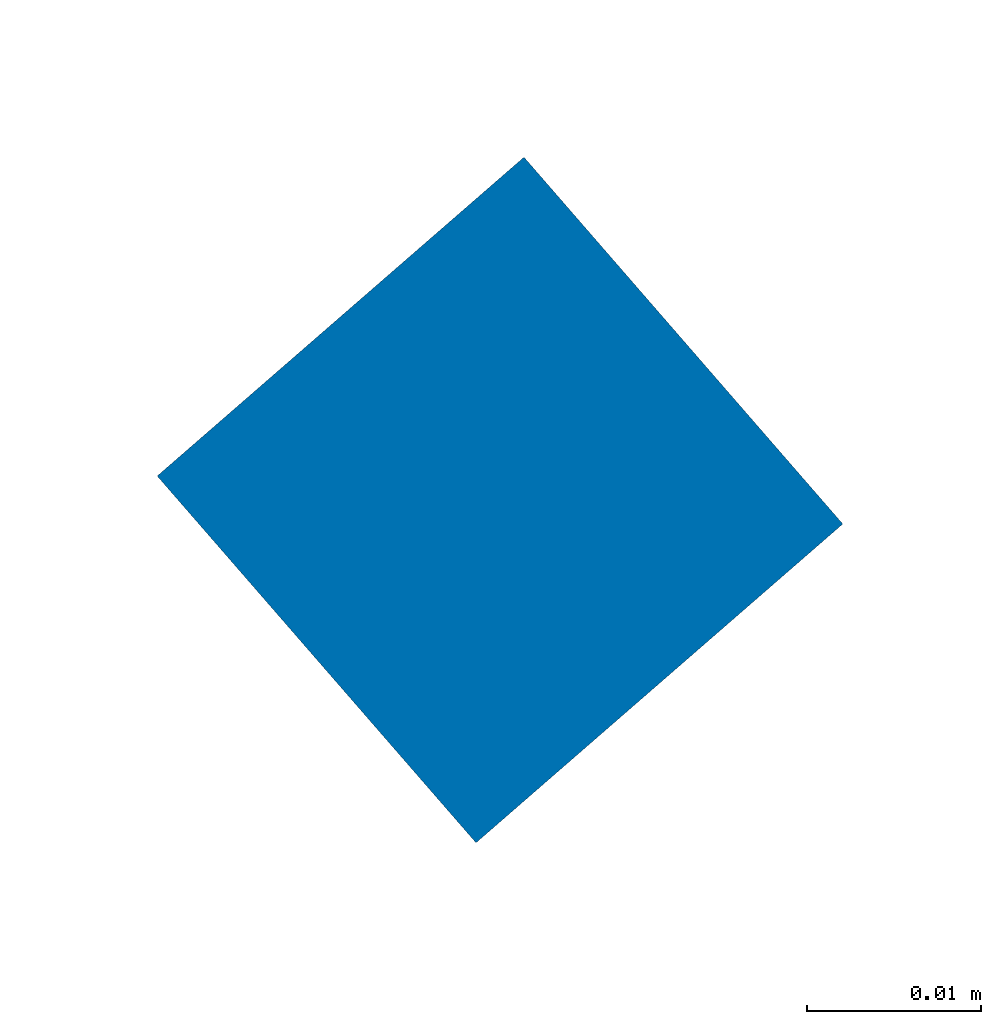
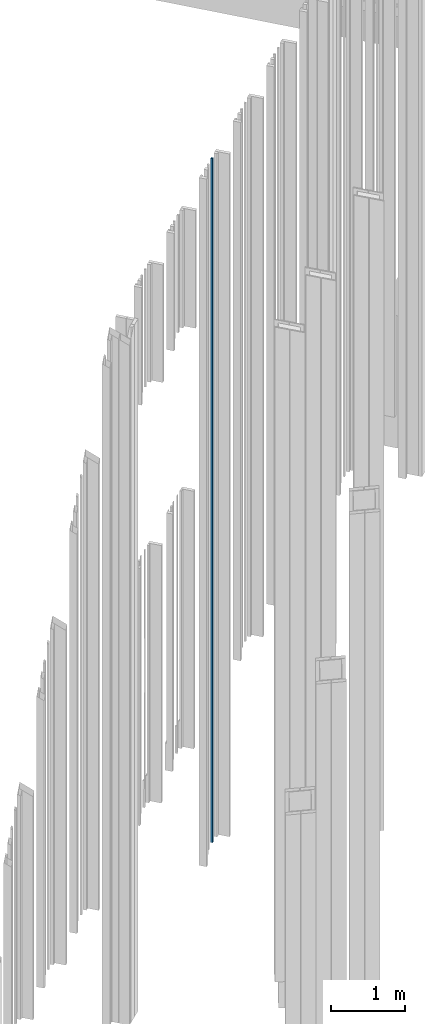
# One storey, part 261 of 390: 1 wall.
"""IFC2X3 building model written with IfcOpenShell, lengths in millimetres."""

from ifc_helpers import new_model, entity, si_unit, converted_unit, derived_unit, money_unit, direction, frame, origin_with_axes, place, context, subcontext, project, spatial, faceted_brep, material, type_object, element, save


model = new_model("IFC2X3")

# Units and contexts
model_context = context("Model", 3, precision=1e-05, world=origin_with_axes(), true_north=direction((0.0, 1.0)))
body_context = subcontext(model_context, "Body", "Model", "MODEL_VIEW")
ifc_project = project(units=[si_unit("LENGTHUNIT", "METRE", prefix="MILLI"), si_unit("AREAUNIT", "SQUARE_METRE"), si_unit("VOLUMEUNIT", "CUBIC_METRE"), converted_unit("PLANEANGLEUNIT", "DEGREE", entity("IfcPlaneAngleMeasure", 0.0174532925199), si_unit("PLANEANGLEUNIT", "RADIAN"), dimensions=[0, 0, 0, 0, 0, 0, 0]), si_unit("SOLIDANGLEUNIT", "STERADIAN"), money_unit("EUR"), converted_unit("TIMEUNIT", "Year", entity("IfcTimeMeasure", 31556926.0), si_unit("TIMEUNIT", "SECOND"), dimensions=[0, 0, 1, 0, 0, 0, 0]), si_unit("MASSUNIT", "GRAM", prefix="KILO"), si_unit("THERMODYNAMICTEMPERATUREUNIT", "DEGREE_CELSIUS"), si_unit("LUMINOUSINTENSITYUNIT", "LUMEN"), si_unit("ENERGYUNIT", "JOULE", prefix="MEGA"), derived_unit("THERMALCONDUCTANCEUNIT", [(si_unit("POWERUNIT", "WATT"), 1), (si_unit("LENGTHUNIT", "METRE"), -1), (si_unit("THERMODYNAMICTEMPERATUREUNIT", "KELVIN"), -1)]), derived_unit("SPECIFICHEATCAPACITYUNIT", [(si_unit("ENERGYUNIT", "JOULE"), 1), (si_unit("MASSUNIT", "GRAM", prefix="KILO"), -1), (si_unit("THERMODYNAMICTEMPERATUREUNIT", "KELVIN"), -1)]), derived_unit("MASSDENSITYUNIT", [(si_unit("MASSUNIT", "GRAM", prefix="KILO"), 1), (si_unit("VOLUMEUNIT", "CUBIC_METRE"), -1)])], contexts=[model_context])

# Site, building, storey
site_placement = place(None, origin_with_axes())
site = spatial("IfcSite", under=ifc_project, at=site_placement, Name="Site", CompositionType="ELEMENT")
building_placement = place(site_placement, origin_with_axes())
building = spatial("IfcBuilding", under=site, at=building_placement, Name="Building", CompositionType="ELEMENT")
storey_placement = place(building_placement, origin_with_axes())
storey = spatial("IfcBuildingStorey", under=building, at=storey_placement, Name="1 korrus", CompositionType="ELEMENT", Elevation=0.0)

# Wall
ifc_material = material(Name="Site specified")
wall_type = type_object("IfcWallType", Name="Puitfassaadi ribistik", PredefinedType="NOTDEFINED")
wall_placement = place(storey_placement, frame((166247.622041, 89162.044832, -1481.74615431), z_axis=(0.0, 0.0, 1.0), x_axis=(-0.754709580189, -0.65605902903, 0.0)))
element("IfcWall", 1, at=wall_placement, inside=storey, type_object=wall_type, material=ifc_material, Name="Site specified", context=body_context, shape_type="Brep", body=[
    faceted_brep([(-14.0, -14.0, 11346.7461543), (-14.0, -14.0, 0.0), (14.0, -14.0, 0.0), (14.0, -14.0, 11346.7461543), (-14.0, 14.0, 11346.7461543), (-14.0, 14.0, 0.0), (14.0, 14.0, 0.0), (14.0, 14.0, 11346.7461543)], [[[0, 1, 2, 3]], [[4, 5, 1, 0]], [[2, 1, 5, 6]], [[3, 2, 6, 7]], [[4, 0, 3, 7]], [[7, 6, 5, 4]]]),
])

save(model, "model.ifc")
